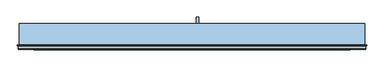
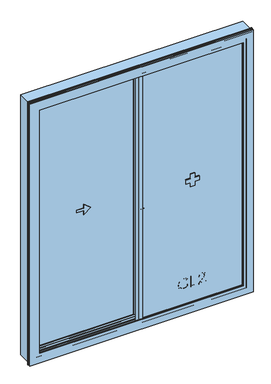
"""IFC4 building model written with IfcOpenShell, lengths in millimetres: window geometry, XL_XHS-9A_Metaglas : XL_XHS-9A_Metaglas."""

from ifc_helpers import new_model, si_unit, point, frame, frame_2d, origin, place, context, project, spatial, polyline, circle_curve, trimmed, segment, composite_curve, outline, extrude, faceted_brep, source, transform, mapped, element, save


def window_7b3e0aa8(model_context):
    return source(origin(), model_context, "Body", "SolidModel", [
        extrude(outline(polyline([(269.2407462, -396.5122122), (281.7977849, -396.5122122), (281.7977849, -437.3225882), (244.2492959, -437.3225882), (232.4034957, -417.1749176), (228.4303702, -395.87455), (230.009197, -381.7877353), (234.7456777, -369.0559526), (242.4742653, -358.4793452), (253.0294129, -350.8580566), (265.6906849, -346.2503346), (279.7376457, -344.7144272), (293.8857741, -346.2442032), (307.0467525, -350.8335311), (318.0862781, -358.2923385), (325.8700479, -368.4305532), (330.486967, -380.7791255), (332.02594, -394.8690059), (328.4574846, -414.5139045), (318.5246708, -428.2849538), (301.9086673, -435.8755856), (298.6467803, -424.2995655), (310.2595886, -418.5728691), (316.9550409, -408.7872081), (319.4689012, -394.6728022), (316.7588372, -378.596359), (309.646452, -367.658001), (299.9711555, -361.1955406), (280.2526805, -357.271466), (258.3637018, -361.9926183), (245.2671028, -375.7268794), (240.9874089, -394.8690059), (244.2125077, -412.0490951), (251.0919011, -424.7655494), (269.2407462, -424.7655494), (269.2407462, -396.5122122)])), frame((0.0, 101.0, 0.0), z_axis=(0.0, 1.0, 0.0), x_axis=(0.0, 0.0, 1.0)), (0.0, 0.0, 1.0), 5.0),
        extrude(outline(polyline([(230.0, -457.7277762), (330.4563101, -457.7277762), (330.4563101, -470.2848149), (242.5570388, -470.2848149), (242.5570388, -520.51297), (230.0, -520.51297), (230.0, -457.7277762)])), frame((0.0, 101.0, 0.0), z_axis=(0.0, 1.0, 0.0), x_axis=(0.0, 0.0, 1.0)), (0.0, 0.0, 1.0), 5.0),
        extrude(outline(polyline([(242.5570388, -594.2855728), (230.0, -594.2855728), (230.0, -528.3611192), (238.6574896, -529.7100199), (251.9870806, -537.3497026), (266.5429449, -553.0827893), (287.4631676, -574.7510388), (301.6879381, -580.1589041), (313.2026446, -575.0453444), (317.8992714, -561.691228), (313.3130092, -547.7730258), (300.6333431, -542.4877878), (302.2029729, -529.9307491), (314.3492101, -532.9749726), (323.2212976, -539.5569946), (328.647557, -549.3334586), (330.4563101, -561.9610081), (328.4452219, -574.6805281), (322.4119572, -584.438598), (313.3988483, -590.6466067), (302.4482276, -592.7159429), (290.5411137, -590.4841255), (278.2293296, -583.0651719), (261.0247149, -565.0757423), (248.9459228, -550.6302427), (242.5570388, -544.9648599), (242.5570388, -594.2855728)])), frame((0.0, 101.0, 0.0), z_axis=(0.0, 1.0, 0.0), x_axis=(0.0, 0.0, 1.0)), (0.0, 0.0, 1.0), 5.0),
        extrude(outline(polyline([(80.0, -931.0), (80.0, -8.0), (2422.0, -8.0), (2422.0, -931.0), (80.0, -931.0)]), holes=[polyline([(2409.0, -918.0), (2409.0, -21.0), (93.0, -21.0), (93.0, -918.0), (2409.0, -918.0)])]), frame((0.0, 76.0, 0.0), z_axis=(0.0, 1.0, 0.0), x_axis=(0.0, 0.0, 1.0)), (0.0, 0.0, 1.0), 25.0),
        extrude(outline(polyline([(-8.0, 104.0), (-931.0, 104.0), (-931.0, 107.0), (-8.0, 107.0), (-8.0, 104.0)])), frame((0.0, 0.0, 80.0), z_axis=(0.0, 0.0, 1.0), x_axis=(1.0, 0.0, 0.0)), (0.0, 0.0, 1.0), 2342.0),
        extrude(outline(polyline([(-8.0, 101.0), (-931.0, 101.0), (-931.0, 104.0), (-8.0, 104.0), (-8.0, 101.0)])), frame((0.0, 0.0, 80.0), z_axis=(0.0, 0.0, 1.0), x_axis=(1.0, 0.0, 0.0)), (0.0, 0.0, 1.0), 2342.0),
        extrude(outline(polyline([(-8.0, 68.0), (-931.0, 68.0), (-931.0, 72.0), (-8.0, 72.0), (-8.0, 68.0)])), frame((0.0, 0.0, 80.0), z_axis=(0.0, 0.0, 1.0), x_axis=(1.0, 0.0, 0.0)), (0.0, 0.0, 1.0), 2342.0),
        extrude(outline(polyline([(-8.0, 72.0), (-931.0, 72.0), (-931.0, 76.0), (-8.0, 76.0), (-8.0, 72.0)])), frame((0.0, 0.0, 80.0), z_axis=(0.0, 0.0, 1.0), x_axis=(1.0, 0.0, 0.0)), (0.0, 0.0, 1.0), 2342.0),
        faceted_brep([(-7.0, 76.0, 79.0), (-7.0, 104.5, 79.0), (-932.0, 104.5, 79.0), (-932.0, 76.0, 79.0), (-1.0, 102.3, 73.0), (-1.0, 76.0, 73.0), (-938.0, 76.0, 73.0), (-938.0, 102.3, 73.0), (5.5, 76.0, 66.5), (5.5, 102.3, 66.5), (-944.5, 102.3, 66.5), (-944.5, 76.0, 66.5), (11.5, 104.5, 60.5), (11.5, 76.0, 60.5), (-950.5, 76.0, 60.5), (-950.5, 104.5, 60.5), (-932.0, 104.5, 2423.0), (-932.0, 76.0, 2423.0), (-938.0, 76.0, 2429.0), (-938.0, 102.3, 2429.0), (-944.5, 102.3, 2435.5), (-944.5, 76.0, 2435.5), (-950.5, 76.0, 2441.5), (-950.5, 104.5, 2441.5), (-7.0, 104.5, 2423.0), (-7.0, 76.0, 2423.0), (-1.0, 76.0, 2429.0), (-1.0, 102.3, 2429.0), (5.5, 102.3, 2435.5), (5.5, 76.0, 2435.5), (11.5, 76.0, 2441.5), (11.5, 104.5, 2441.5)], [[[0, 1, 2, 3]], [[4, 5, 6, 7]], [[8, 9, 10, 11]], [[12, 13, 14, 15]], [[3, 2, 16, 17]], [[7, 6, 18, 19]], [[11, 10, 20, 21]], [[15, 14, 22, 23]], [[17, 16, 24, 25]], [[19, 18, 26, 27]], [[21, 20, 28, 29]], [[23, 22, 30, 31]], [[15, 23, 31, 12], [1, 24, 16, 2]], [[25, 24, 1, 0]], [[5, 26, 18, 6], [3, 17, 25, 0]], [[27, 26, 5, 4]], [[9, 28, 20, 10], [7, 19, 27, 4]], [[29, 28, 9, 8]], [[13, 30, 22, 14], [11, 21, 29, 8]], [[31, 30, 13, 12]]]),
        faceted_brep([(-20.5, 64.0, 92.5), (-20.5, 74.5, 92.5), (-918.5, 74.5, 92.5), (-918.5, 64.0, 92.5), (5.5, 65.5, 66.5), (5.5, 64.0, 66.5), (-944.5, 64.0, 66.5), (-944.5, 65.5, 66.5), (-2.5, 69.5, 74.5), (-2.5, 65.5, 74.5), (-936.5, 65.5, 74.5), (-936.5, 69.5, 74.5), (5.5, 83.0, 66.5), (5.5, 69.5, 66.5), (-944.5, 69.5, 66.5), (-944.5, 83.0, 66.5), (4.0, 78.0, 68.0), (4.0, 83.0, 68.0), (-943.0, 83.0, 68.0), (-943.0, 78.0, 68.0), (1.0, 96.0, 71.0), (1.0, 78.0, 71.0), (-940.0, 78.0, 71.0), (-940.0, 96.0, 71.0), (4.0, 91.0, 68.0), (4.0, 96.0, 68.0), (-943.0, 96.0, 68.0), (-943.0, 91.0, 68.0), (5.5, 98.0, 66.5), (5.5, 91.0, 66.5), (-944.5, 91.0, 66.5), (-944.5, 98.0, 66.5), (-0.5, 76.0, 72.5), (-0.5, 98.0, 72.5), (-938.5, 98.0, 72.5), (-938.5, 76.0, 72.5), (2.0, 71.5, 70.0), (2.0, 76.0, 70.0), (-941.0, 76.0, 70.0), (-941.0, 71.5, 70.0), (-4.5, 69.3, 76.5), (-4.5, 71.5, 76.5), (-934.5, 71.5, 76.5), (-934.5, 69.3, 76.5), (-7.5, 67.8, 79.5), (-7.5, 69.3, 79.5), (-931.5, 69.3, 79.5), (-931.5, 67.8, 79.5), (-4.5, 65.5, 76.5), (-4.5, 67.8, 76.5), (-934.5, 67.8, 76.5), (-934.5, 65.5, 76.5), (-18.5, 67.8, 90.5), (-18.5, 65.5, 90.5), (-920.5, 65.5, 90.5), (-920.5, 67.8, 90.5), (-16.5, 69.3, 88.5), (-16.5, 67.8, 88.5), (-922.5, 67.8, 88.5), (-922.5, 69.3, 88.5), (-18.5, 72.5, 90.5), (-18.5, 69.3, 90.5), (-920.5, 69.3, 90.5), (-920.5, 72.5, 90.5), (-10.5, 74.5, 82.5), (-10.5, 72.5, 82.5), (-928.5, 72.5, 82.5), (-928.5, 74.5, 82.5), (-918.5, 74.5, 2409.5), (-918.5, 64.0, 2409.5), (-944.5, 64.0, 2435.5), (-944.5, 65.5, 2435.5), (-936.5, 65.5, 2427.5), (-936.5, 69.5, 2427.5), (-944.5, 69.5, 2435.5), (-944.5, 83.0, 2435.5), (-943.0, 83.0, 2434.0), (-943.0, 78.0, 2434.0), (-940.0, 78.0, 2431.0), (-940.0, 96.0, 2431.0), (-943.0, 96.0, 2434.0), (-943.0, 91.0, 2434.0), (-944.5, 91.0, 2435.5), (-944.5, 98.0, 2435.5), (-938.5, 98.0, 2429.5), (-938.5, 76.0, 2429.5), (-941.0, 76.0, 2432.0), (-941.0, 71.5, 2432.0), (-934.5, 71.5, 2425.5), (-934.5, 69.3, 2425.5), (-931.5, 69.3, 2422.5), (-931.5, 67.8, 2422.5), (-934.5, 67.8, 2425.5), (-934.5, 65.5, 2425.5), (-920.5, 65.5, 2411.5), (-920.5, 67.8, 2411.5), (-922.5, 67.8, 2413.5), (-922.5, 69.3, 2413.5), (-920.5, 69.3, 2411.5), (-920.5, 72.5, 2411.5), (-928.5, 72.5, 2419.5), (-928.5, 74.5, 2419.5), (-20.5, 74.5, 2409.5), (-20.5, 64.0, 2409.5), (5.5, 64.0, 2435.5), (5.5, 65.5, 2435.5), (-2.5, 65.5, 2427.5), (-2.5, 69.5, 2427.5), (5.5, 69.5, 2435.5), (5.5, 83.0, 2435.5), (4.0, 83.0, 2434.0), (4.0, 78.0, 2434.0), (1.0, 78.0, 2431.0), (1.0, 96.0, 2431.0), (4.0, 96.0, 2434.0), (4.0, 91.0, 2434.0), (5.5, 91.0, 2435.5), (5.5, 98.0, 2435.5), (-0.5, 98.0, 2429.5), (-0.5, 76.0, 2429.5), (2.0, 76.0, 2432.0), (2.0, 71.5, 2432.0), (-4.5, 71.5, 2425.5), (-4.5, 69.3, 2425.5), (-7.5, 69.3, 2422.5), (-7.5, 67.8, 2422.5), (-4.5, 67.8, 2425.5), (-4.5, 65.5, 2425.5), (-18.5, 65.5, 2411.5), (-18.5, 67.8, 2411.5), (-16.5, 67.8, 2413.5), (-16.5, 69.3, 2413.5), (-18.5, 69.3, 2411.5), (-18.5, 72.5, 2411.5), (-10.5, 72.5, 2419.5), (-10.5, 74.5, 2419.5)], [[[0, 1, 2, 3]], [[4, 5, 6, 7]], [[8, 9, 10, 11]], [[12, 13, 14, 15]], [[16, 17, 18, 19]], [[20, 21, 22, 23]], [[24, 25, 26, 27]], [[28, 29, 30, 31]], [[32, 33, 34, 35]], [[36, 37, 38, 39]], [[40, 41, 42, 43]], [[44, 45, 46, 47]], [[48, 49, 50, 51]], [[52, 53, 54, 55]], [[56, 57, 58, 59]], [[60, 61, 62, 63]], [[64, 65, 66, 67]], [[3, 2, 68, 69]], [[7, 6, 70, 71]], [[11, 10, 72, 73]], [[15, 14, 74, 75]], [[19, 18, 76, 77]], [[23, 22, 78, 79]], [[27, 26, 80, 81]], [[31, 30, 82, 83]], [[35, 34, 84, 85]], [[39, 38, 86, 87]], [[43, 42, 88, 89]], [[47, 46, 90, 91]], [[51, 50, 92, 93]], [[55, 54, 94, 95]], [[59, 58, 96, 97]], [[63, 62, 98, 99]], [[67, 66, 100, 101]], [[69, 68, 102, 103]], [[71, 70, 104, 105]], [[73, 72, 106, 107]], [[75, 74, 108, 109]], [[77, 76, 110, 111]], [[79, 78, 112, 113]], [[81, 80, 114, 115]], [[83, 82, 116, 117]], [[85, 84, 118, 119]], [[87, 86, 120, 121]], [[89, 88, 122, 123]], [[91, 90, 124, 125]], [[93, 92, 126, 127]], [[95, 94, 128, 129]], [[97, 96, 130, 131]], [[99, 98, 132, 133]], [[101, 100, 134, 135]], [[103, 102, 1, 0]], [[5, 104, 70, 6], [3, 69, 103, 0]], [[105, 104, 5, 4]], [[7, 71, 105, 4], [9, 106, 72, 10]], [[107, 106, 9, 8]], [[13, 108, 74, 14], [11, 73, 107, 8]], [[109, 108, 13, 12]], [[15, 75, 109, 12], [17, 110, 76, 18]], [[111, 110, 17, 16]], [[19, 77, 111, 16], [21, 112, 78, 22]], [[113, 112, 21, 20]], [[25, 114, 80, 26], [23, 79, 113, 20]], [[115, 114, 25, 24]], [[29, 116, 82, 30], [27, 81, 115, 24]], [[117, 116, 29, 28]], [[31, 83, 117, 28], [33, 118, 84, 34]], [[119, 118, 33, 32]], [[37, 120, 86, 38], [35, 85, 119, 32]], [[121, 120, 37, 36]], [[39, 87, 121, 36], [41, 122, 88, 42]], [[123, 122, 41, 40]], [[43, 89, 123, 40], [45, 124, 90, 46]], [[125, 124, 45, 44]], [[49, 126, 92, 50], [47, 91, 125, 44]], [[127, 126, 49, 48]], [[51, 93, 127, 48], [53, 128, 94, 54]], [[129, 128, 53, 52]], [[57, 130, 96, 58], [55, 95, 129, 52]], [[131, 130, 57, 56]], [[59, 97, 131, 56], [61, 132, 98, 62]], [[133, 132, 61, 60]], [[65, 134, 100, 66], [63, 99, 133, 60]], [[135, 134, 65, 64]], [[67, 101, 135, 64], [1, 102, 68, 2]]]),
        faceted_brep([(-21.0, 110.0, 2409.0), (-21.0, 116.0, 2409.0), (-21.0, 116.0, 93.0), (-21.0, 110.0, 93.0), (-5.9, 113.5, 2424.1), (-5.9, 110.0, 2424.1), (-5.9, 110.0, 77.9), (-5.9, 113.5, 77.9), (11.6, 69.5, 2441.6), (11.6, 113.5, 2441.6), (11.6, 113.5, 60.4), (11.6, 69.5, 60.4), (21.0, 116.0, 2451.0), (21.0, 69.5, 2451.0), (21.0, 69.5, 51.0), (21.0, 116.0, 51.0), (-918.0, 116.0, 93.0), (-918.0, 110.0, 93.0), (-933.1, 110.0, 77.9), (-933.1, 113.5, 77.9), (-950.6, 113.5, 60.4), (-950.6, 69.5, 60.4), (-960.0, 69.5, 51.0), (-960.0, 116.0, 51.0), (-918.0, 116.0, 2409.0), (-918.0, 110.0, 2409.0), (-933.1, 110.0, 2424.1), (-933.1, 113.5, 2424.1), (-950.6, 113.5, 2441.6), (-950.6, 69.5, 2441.6), (-960.0, 69.5, 2451.0), (-960.0, 116.0, 2451.0)], [[[0, 1, 2, 3]], [[4, 5, 6, 7]], [[8, 9, 10, 11]], [[12, 13, 14, 15]], [[3, 2, 16, 17]], [[7, 6, 18, 19]], [[11, 10, 20, 21]], [[15, 14, 22, 23]], [[17, 16, 24, 25]], [[19, 18, 26, 27]], [[21, 20, 28, 29]], [[23, 22, 30, 31]], [[25, 24, 1, 0]], [[5, 26, 18, 6], [3, 17, 25, 0]], [[27, 26, 5, 4]], [[9, 28, 20, 10], [7, 19, 27, 4]], [[29, 28, 9, 8]], [[13, 30, 22, 14], [11, 21, 29, 8]], [[31, 30, 13, 12]], [[15, 23, 31, 12], [1, 24, 16, 2]]]),
        extrude(outline(polyline([(269.2407462, 396.5122122), (269.2407462, 424.7655494), (251.0919011, 424.7655494), (244.2125077, 412.0490951), (240.9874089, 394.8690059), (245.2671028, 375.7268794), (258.3637018, 361.9926183), (280.2526805, 357.271466), (299.9711555, 361.1955406), (309.646452, 367.658001), (316.7588372, 378.596359), (319.4689012, 394.6728022), (316.9550409, 408.7872081), (310.2595886, 418.5728691), (298.6467803, 424.2995655), (301.9086673, 435.8755856), (318.5246708, 428.2849538), (328.4574846, 414.5139045), (332.02594, 394.8690059), (330.486967, 380.7791255), (325.8700479, 368.4305532), (318.0862781, 358.2923385), (307.0467525, 350.8335311), (293.8857741, 346.2442032), (279.7376457, 344.7144272), (265.6906849, 346.2503346), (253.0294129, 350.8580566), (242.4742653, 358.4793452), (234.7456777, 369.0559526), (230.009197, 381.7877353), (228.4303702, 395.87455), (232.4034957, 417.1749176), (244.2492959, 437.3225882), (281.7977849, 437.3225882), (281.7977849, 396.5122122), (269.2407462, 396.5122122)])), frame((0.0, -6.0, 0.0), z_axis=(0.0, 1.0, 0.0), x_axis=(0.0, 0.0, 1.0)), (0.0, 0.0, 1.0), 5.0),
        extrude(outline(polyline([(230.0, 457.7277762), (230.0, 520.51297), (242.5570388, 520.51297), (242.5570388, 470.2848149), (330.4563101, 470.2848149), (330.4563101, 457.7277762), (230.0, 457.7277762)])), frame((0.0, -6.0, 0.0), z_axis=(0.0, 1.0, 0.0), x_axis=(0.0, 0.0, 1.0)), (0.0, 0.0, 1.0), 5.0),
        extrude(outline(polyline([(242.5570388, 594.2855728), (242.5570388, 544.9648599), (248.9459228, 550.6302427), (261.0247149, 565.0757423), (278.2293296, 583.0651719), (290.5411137, 590.4841255), (302.4482276, 592.7159429), (313.3988483, 590.6466067), (322.4119572, 584.438598), (328.4452219, 574.6805281), (330.4563101, 561.9610081), (328.647557, 549.3334586), (323.2212976, 539.5569946), (314.3492101, 532.9749726), (302.2029729, 529.9307491), (300.6333431, 542.4877878), (313.3130092, 547.7730258), (317.8992714, 561.691228), (313.2026446, 575.0453444), (301.6879381, 580.1589041), (287.4631676, 574.7510388), (266.5429449, 553.0827893), (251.9870806, 537.3497026), (238.6574896, 529.7100199), (230.0, 528.3611192), (230.0, 594.2855728), (242.5570388, 594.2855728)])), frame((0.0, -6.0, 0.0), z_axis=(0.0, 1.0, 0.0), x_axis=(0.0, 0.0, 1.0)), (0.0, 0.0, 1.0), 5.0),
        extrude(outline(polyline([(2422.0, 931.0), (2422.0, 8.0), (80.0, 8.0), (80.0, 931.0), (2422.0, 931.0)]), holes=[polyline([(93.0, 918.0), (93.0, 21.0), (2409.0, 21.0), (2409.0, 918.0), (93.0, 918.0)])]), frame((0.0, -1.0, 0.0), z_axis=(0.0, 1.0, 0.0), x_axis=(0.0, 0.0, 1.0)), (0.0, 0.0, 1.0), 25.0),
        extrude(outline(polyline([(8.0, -4.0), (931.0, -4.0), (931.0, -7.0), (8.0, -7.0), (8.0, -4.0)])), frame((0.0, 0.0, 80.0), z_axis=(0.0, 0.0, 1.0), x_axis=(1.0, 0.0, 0.0)), (0.0, 0.0, 1.0), 2342.0),
        extrude(outline(polyline([(8.0, -1.0), (931.0, -1.0), (931.0, -4.0), (8.0, -4.0), (8.0, -1.0)])), frame((0.0, 0.0, 80.0), z_axis=(0.0, 0.0, 1.0), x_axis=(1.0, 0.0, 0.0)), (0.0, 0.0, 1.0), 2342.0),
        extrude(outline(polyline([(8.0, 32.0), (931.0, 32.0), (931.0, 28.0), (8.0, 28.0), (8.0, 32.0)])), frame((0.0, 0.0, 80.0), z_axis=(0.0, 0.0, 1.0), x_axis=(1.0, 0.0, 0.0)), (0.0, 0.0, 1.0), 2342.0),
        extrude(outline(polyline([(8.0, 28.0), (931.0, 28.0), (931.0, 24.0), (8.0, 24.0), (8.0, 28.0)])), frame((0.0, 0.0, 80.0), z_axis=(0.0, 0.0, 1.0), x_axis=(1.0, 0.0, 0.0)), (0.0, 0.0, 1.0), 2342.0),
        faceted_brep([(7.0, 24.0, 79.0), (7.0, -4.5, 79.0), (932.0, -4.5, 79.0), (932.0, 24.0, 79.0), (1.0, -2.3, 73.0), (1.0, 24.0, 73.0), (938.0, 24.0, 73.0), (938.0, -2.3, 73.0), (-5.5, 24.0, 66.5), (-5.5, -2.3, 66.5), (944.5, -2.3, 66.5), (944.5, 24.0, 66.5), (-11.5, -4.5, 60.5), (-11.5, 24.0, 60.5), (950.5, 24.0, 60.5), (950.5, -4.5, 60.5), (932.0, -4.5, 2423.0), (932.0, 24.0, 2423.0), (938.0, 24.0, 2429.0), (938.0, -2.3, 2429.0), (944.5, -2.3, 2435.5), (944.5, 24.0, 2435.5), (950.5, 24.0, 2441.5), (950.5, -4.5, 2441.5), (7.0, -4.5, 2423.0), (7.0, 24.0, 2423.0), (1.0, 24.0, 2429.0), (1.0, -2.3, 2429.0), (-5.5, -2.3, 2435.5), (-5.5, 24.0, 2435.5), (-11.5, 24.0, 2441.5), (-11.5, -4.5, 2441.5)], [[[0, 1, 2, 3]], [[4, 5, 6, 7]], [[8, 9, 10, 11]], [[12, 13, 14, 15]], [[3, 2, 16, 17]], [[7, 6, 18, 19]], [[11, 10, 20, 21]], [[15, 14, 22, 23]], [[17, 16, 24, 25]], [[19, 18, 26, 27]], [[21, 20, 28, 29]], [[23, 22, 30, 31]], [[15, 23, 31, 12], [1, 24, 16, 2]], [[25, 24, 1, 0]], [[5, 26, 18, 6], [3, 17, 25, 0]], [[27, 26, 5, 4]], [[9, 28, 20, 10], [7, 19, 27, 4]], [[29, 28, 9, 8]], [[13, 30, 22, 14], [11, 21, 29, 8]], [[31, 30, 13, 12]]]),
        faceted_brep([(20.5, 36.0, 92.5), (20.5, 25.5, 92.5), (918.5, 25.5, 92.5), (918.5, 36.0, 92.5), (-5.5, 34.5, 66.5), (-5.5, 36.0, 66.5), (944.5, 36.0, 66.5), (944.5, 34.5, 66.5), (2.5, 30.5, 74.5), (2.5, 34.5, 74.5), (936.5, 34.5, 74.5), (936.5, 30.5, 74.5), (-5.5, 17.0, 66.5), (-5.5, 30.5, 66.5), (944.5, 30.5, 66.5), (944.5, 17.0, 66.5), (-4.0, 22.0, 68.0), (-4.0, 17.0, 68.0), (943.0, 17.0, 68.0), (943.0, 22.0, 68.0), (-1.0, 4.0, 71.0), (-1.0, 22.0, 71.0), (940.0, 22.0, 71.0), (940.0, 4.0, 71.0), (-4.0, 9.0, 68.0), (-4.0, 4.0, 68.0), (943.0, 4.0, 68.0), (943.0, 9.0, 68.0), (-5.5, 2.0, 66.5), (-5.5, 9.0, 66.5), (944.5, 9.0, 66.5), (944.5, 2.0, 66.5), (0.5, 24.0, 72.5), (0.5, 2.0, 72.5), (938.5, 2.0, 72.5), (938.5, 24.0, 72.5), (-2.0, 28.5, 70.0), (-2.0, 24.0, 70.0), (941.0, 24.0, 70.0), (941.0, 28.5, 70.0), (4.5, 30.7, 76.5), (4.5, 28.5, 76.5), (934.5, 28.5, 76.5), (934.5, 30.7, 76.5), (7.5, 32.2, 79.5), (7.5, 30.7, 79.5), (931.5, 30.7, 79.5), (931.5, 32.2, 79.5), (4.5, 34.5, 76.5), (4.5, 32.2, 76.5), (934.5, 32.2, 76.5), (934.5, 34.5, 76.5), (18.5, 32.2, 90.5), (18.5, 34.5, 90.5), (920.5, 34.5, 90.5), (920.5, 32.2, 90.5), (16.5, 30.7, 88.5), (16.5, 32.2, 88.5), (922.5, 32.2, 88.5), (922.5, 30.7, 88.5), (18.5, 27.5, 90.5), (18.5, 30.7, 90.5), (920.5, 30.7, 90.5), (920.5, 27.5, 90.5), (10.5, 25.5, 82.5), (10.5, 27.5, 82.5), (928.5, 27.5, 82.5), (928.5, 25.5, 82.5), (918.5, 25.5, 2409.5), (918.5, 36.0, 2409.5), (944.5, 36.0, 2435.5), (944.5, 34.5, 2435.5), (936.5, 34.5, 2427.5), (936.5, 30.5, 2427.5), (944.5, 30.5, 2435.5), (944.5, 17.0, 2435.5), (943.0, 17.0, 2434.0), (943.0, 22.0, 2434.0), (940.0, 22.0, 2431.0), (940.0, 4.0, 2431.0), (943.0, 4.0, 2434.0), (943.0, 9.0, 2434.0), (944.5, 9.0, 2435.5), (944.5, 2.0, 2435.5), (938.5, 2.0, 2429.5), (938.5, 24.0, 2429.5), (941.0, 24.0, 2432.0), (941.0, 28.5, 2432.0), (934.5, 28.5, 2425.5), (934.5, 30.7, 2425.5), (931.5, 30.7, 2422.5), (931.5, 32.2, 2422.5), (934.5, 32.2, 2425.5), (934.5, 34.5, 2425.5), (920.5, 34.5, 2411.5), (920.5, 32.2, 2411.5), (922.5, 32.2, 2413.5), (922.5, 30.7, 2413.5), (920.5, 30.7, 2411.5), (920.5, 27.5, 2411.5), (928.5, 27.5, 2419.5), (928.5, 25.5, 2419.5), (20.5, 25.5, 2409.5), (20.5, 36.0, 2409.5), (-5.5, 36.0, 2435.5), (-5.5, 34.5, 2435.5), (2.5, 34.5, 2427.5), (2.5, 30.5, 2427.5), (-5.5, 30.5, 2435.5), (-5.5, 17.0, 2435.5), (-4.0, 17.0, 2434.0), (-4.0, 22.0, 2434.0), (-1.0, 22.0, 2431.0), (-1.0, 4.0, 2431.0), (-4.0, 4.0, 2434.0), (-4.0, 9.0, 2434.0), (-5.5, 9.0, 2435.5), (-5.5, 2.0, 2435.5), (0.5, 2.0, 2429.5), (0.5, 24.0, 2429.5), (-2.0, 24.0, 2432.0), (-2.0, 28.5, 2432.0), (4.5, 28.5, 2425.5), (4.5, 30.7, 2425.5), (7.5, 30.7, 2422.5), (7.5, 32.2, 2422.5), (4.5, 32.2, 2425.5), (4.5, 34.5, 2425.5), (18.5, 34.5, 2411.5), (18.5, 32.2, 2411.5), (16.5, 32.2, 2413.5), (16.5, 30.7, 2413.5), (18.5, 30.7, 2411.5), (18.5, 27.5, 2411.5), (10.5, 27.5, 2419.5), (10.5, 25.5, 2419.5)], [[[0, 1, 2, 3]], [[4, 5, 6, 7]], [[8, 9, 10, 11]], [[12, 13, 14, 15]], [[16, 17, 18, 19]], [[20, 21, 22, 23]], [[24, 25, 26, 27]], [[28, 29, 30, 31]], [[32, 33, 34, 35]], [[36, 37, 38, 39]], [[40, 41, 42, 43]], [[44, 45, 46, 47]], [[48, 49, 50, 51]], [[52, 53, 54, 55]], [[56, 57, 58, 59]], [[60, 61, 62, 63]], [[64, 65, 66, 67]], [[3, 2, 68, 69]], [[7, 6, 70, 71]], [[11, 10, 72, 73]], [[15, 14, 74, 75]], [[19, 18, 76, 77]], [[23, 22, 78, 79]], [[27, 26, 80, 81]], [[31, 30, 82, 83]], [[35, 34, 84, 85]], [[39, 38, 86, 87]], [[43, 42, 88, 89]], [[47, 46, 90, 91]], [[51, 50, 92, 93]], [[55, 54, 94, 95]], [[59, 58, 96, 97]], [[63, 62, 98, 99]], [[67, 66, 100, 101]], [[69, 68, 102, 103]], [[71, 70, 104, 105]], [[73, 72, 106, 107]], [[75, 74, 108, 109]], [[77, 76, 110, 111]], [[79, 78, 112, 113]], [[81, 80, 114, 115]], [[83, 82, 116, 117]], [[85, 84, 118, 119]], [[87, 86, 120, 121]], [[89, 88, 122, 123]], [[91, 90, 124, 125]], [[93, 92, 126, 127]], [[95, 94, 128, 129]], [[97, 96, 130, 131]], [[99, 98, 132, 133]], [[101, 100, 134, 135]], [[103, 102, 1, 0]], [[5, 104, 70, 6], [3, 69, 103, 0]], [[105, 104, 5, 4]], [[7, 71, 105, 4], [9, 106, 72, 10]], [[107, 106, 9, 8]], [[13, 108, 74, 14], [11, 73, 107, 8]], [[109, 108, 13, 12]], [[15, 75, 109, 12], [17, 110, 76, 18]], [[111, 110, 17, 16]], [[19, 77, 111, 16], [21, 112, 78, 22]], [[113, 112, 21, 20]], [[25, 114, 80, 26], [23, 79, 113, 20]], [[115, 114, 25, 24]], [[29, 116, 82, 30], [27, 81, 115, 24]], [[117, 116, 29, 28]], [[31, 83, 117, 28], [33, 118, 84, 34]], [[119, 118, 33, 32]], [[37, 120, 86, 38], [35, 85, 119, 32]], [[121, 120, 37, 36]], [[39, 87, 121, 36], [41, 122, 88, 42]], [[123, 122, 41, 40]], [[43, 89, 123, 40], [45, 124, 90, 46]], [[125, 124, 45, 44]], [[49, 126, 92, 50], [47, 91, 125, 44]], [[127, 126, 49, 48]], [[51, 93, 127, 48], [53, 128, 94, 54]], [[129, 128, 53, 52]], [[57, 130, 96, 58], [55, 95, 129, 52]], [[131, 130, 57, 56]], [[59, 97, 131, 56], [61, 132, 98, 62]], [[133, 132, 61, 60]], [[65, 134, 100, 66], [63, 99, 133, 60]], [[135, 134, 65, 64]], [[67, 101, 135, 64], [1, 102, 68, 2]]]),
        faceted_brep([(21.0, -10.0, 2409.0), (21.0, -16.0, 2409.0), (21.0, -16.0, 93.0), (21.0, -10.0, 93.0), (5.9, -13.5, 2424.1), (5.9, -10.0, 2424.1), (5.9, -10.0, 77.9), (5.9, -13.5, 77.9), (-11.6, 30.5, 2441.6), (-11.6, -13.5, 2441.6), (-11.6, -13.5, 60.4), (-11.6, 30.5, 60.4), (-21.0, -16.0, 2451.0), (-21.0, 30.5, 2451.0), (-21.0, 30.5, 51.0), (-21.0, -16.0, 51.0), (918.0, -16.0, 93.0), (918.0, -10.0, 93.0), (933.1, -10.0, 77.9), (933.1, -13.5, 77.9), (950.6, -13.5, 60.4), (950.6, 30.5, 60.4), (960.0, 30.5, 51.0), (960.0, -16.0, 51.0), (918.0, -16.0, 2409.0), (918.0, -10.0, 2409.0), (933.1, -10.0, 2424.1), (933.1, -13.5, 2424.1), (950.6, -13.5, 2441.6), (950.6, 30.5, 2441.6), (960.0, 30.5, 2451.0), (960.0, -16.0, 2451.0)], [[[0, 1, 2, 3]], [[4, 5, 6, 7]], [[8, 9, 10, 11]], [[12, 13, 14, 15]], [[3, 2, 16, 17]], [[7, 6, 18, 19]], [[11, 10, 20, 21]], [[15, 14, 22, 23]], [[17, 16, 24, 25]], [[19, 18, 26, 27]], [[21, 20, 28, 29]], [[23, 22, 30, 31]], [[25, 24, 1, 0]], [[5, 26, 18, 6], [3, 17, 25, 0]], [[27, 26, 5, 4]], [[9, 28, 20, 10], [7, 19, 27, 4]], [[29, 28, 9, 8]], [[13, 30, 22, 14], [11, 21, 29, 8]], [[31, 30, 13, 12]], [[15, 23, 31, 12], [1, 24, 16, 2]]]),
        extrude(outline(polyline([(1263.5, -531.8), (1238.5, -531.8), (1238.5, -469.5), (1201.6, -469.5), (1251.0, -407.2), (1300.4, -469.5), (1263.5, -469.5), (1263.5, -531.8)])), frame((0.0, 65.0, 0.0), z_axis=(0.0, 1.0, 0.0), x_axis=(0.0, 0.0, 1.0)), (0.0, 0.0, 1.0), 50.0),
        extrude(outline(polyline([(1311.0, 449.5), (1271.0, 449.5), (1271.0, 409.5), (1231.0, 409.5), (1231.0, 449.5), (1191.0, 449.5), (1191.0, 489.5), (1231.0, 489.5), (1231.0, 529.5), (1271.0, 529.5), (1271.0, 489.5), (1311.0, 489.5), (1311.0, 449.5)])), frame((0.0, -15.0, 0.0), z_axis=(0.0, 1.0, 0.0), x_axis=(0.0, 0.0, 1.0)), (0.0, 0.0, 1.0), 50.0),
        extrude(outline(composite_curve([segment(trimmed(circle_curve(frame_2d((55.1000008, 1090.0)), 10.0), [point((45.1000008, 1090.0))], [point((65.1000008, 1090.0))], False, "CARTESIAN"), True, "CONTINUOUS"), segment(trimmed(circle_curve(frame_2d((55.1000008, 1090.0)), 10.0), [point((65.1000008, 1090.0))], [point((45.1000008, 1090.0))], False, "CARTESIAN"), True, "CONTINUOUS")], self_intersect=False)), frame((38.0, 0.0, 0.0), z_axis=(1.0, 0.0, 0.0), x_axis=(0.0, 1.0, 0.0)), (0.0, 0.0, 1.0), 33.0),
        extrude(outline(polyline([(38.0, 81.1000008), (38.0, 95.1000008), (51.0, 95.1000008), (51.0, 81.1000008), (38.0, 81.1000008)])), frame((0.0, 0.0, 1107.0), z_axis=(0.0, 0.0, 1.0), x_axis=(1.0, 0.0, 0.0)), (0.0, 0.0, 1.0), 65.0),
        extrude(outline(polyline([(38.0, 160.1000008), (38.0, 43.1000008), (24.0, 43.1000008), (24.0, 160.1000008), (38.0, 160.1000008)])), frame((0.0, 0.0, 1064.5), z_axis=(0.0, 0.0, 1.0), x_axis=(1.0, 0.0, 0.0)), (0.0, 0.0, 1.0), 127.0),
        faceted_brep([(918.0223637, 117.3999731, 2409.0223637), (918.0223637, 124.1999529, 2409.0223637), (918.0223637, 124.1999529, 92.9776363), (918.0223637, 117.3999731, 92.9776363), (992.5220194, 124.1999529, 18.4779806), (-992.5220194, 124.1999529, 18.4779806), (-992.5220194, 124.1999529, 2483.5220194), (992.5220194, 124.1999529, 2483.5220194), (-918.0223637, 124.1999529, 2409.0223637), (-918.0223637, 124.1999529, 92.9776363), (-918.0223637, 117.3999731, 92.9776363), (948.5723492, 117.3999731, 2439.5723492), (-948.5723492, 117.3999731, 2439.5723492), (-948.5723492, 117.3999731, 62.4276508), (948.5723492, 117.3999731, 62.4276508), (-918.0223637, 117.3999731, 2409.0223637), (948.5723492, 121.2000079, 2439.5723492), (948.5723492, 121.2000079, 62.4276508), (-948.5723492, 121.2000079, 62.4276508), (981.5227079, 121.2000079, 2472.5227079), (-981.5227079, 121.2000079, 2472.5227079), (-981.5227079, 121.2000079, 29.4772921), (981.5227079, 121.2000079, 29.4772921), (-948.5723492, 121.2000079, 2439.5723492), (981.5227079, 59.0483017, 2472.5227079), (981.5227079, 59.0483017, 29.4772921), (-981.5227079, 59.0483017, 29.4772921), (-981.5227079, 59.0483017, 2472.5227079), (959.9220139, 59.0483017, 2450.9220139), (-959.9220139, 59.0483017, 2450.9220139), (-959.9220139, 59.0483017, 51.0779861), (959.9220139, 59.0483017, 51.0779861), (959.9220139, 60.8984035, 2450.9220139), (959.9220139, 60.8984035, 51.0779861), (-959.9220139, 60.8984035, 51.0779861), (-959.9220139, 60.8984035, 2450.9220139), (952.0220194, 60.8984035, 2443.0220194), (-952.0220194, 60.8984035, 2443.0220194), (-952.0220194, 60.8984035, 58.9779806), (952.0220194, 60.8984035, 58.9779806), (952.0220194, 59.0483017, 2443.0220194), (952.0220194, 59.0483017, 58.9779806), (-952.0220194, 59.0483017, 58.9779806), (-952.0220194, 59.0483017, 2443.0220194), (945.5220261, 59.0483017, 2436.5220261), (-945.5220261, 59.0483017, 2436.5220261), (-945.5220261, 59.0483017, 65.4779739), (945.5220261, 59.0483017, 65.4779739), (945.5220261, 56.5499526, 2436.5220261), (945.5220261, 56.5499526, 65.4779739), (-945.5220261, 56.5499526, 65.4779739), (949.3220545, 55.0863721, 2440.3220545), (949.3220545, 55.0863721, 61.6779455), (-949.3220545, 55.0863721, 61.6779455), (949.3220545, 57.3106255, 2440.3220545), (949.3220545, 57.3106255, 61.6779455), (-949.3220545, 57.3106255, 61.6779455), (952.580895, 57.3106255, 2443.580895), (-952.580895, 57.3106255, 2443.580895), (-952.580895, 57.3106255, 58.419105), (952.580895, 57.3106255, 58.419105), (-949.3220545, 57.3106255, 2440.3220545), (952.580895, 41.3893251, 2443.580895), (952.580895, 41.3893251, 58.419105), (-952.580895, 41.3893251, 58.419105), (-952.580895, 41.3893251, 2443.580895), (949.3000351, 41.3893251, 2440.3000351), (-949.3000351, 41.3893251, 2440.3000351), (-949.3000351, 41.3893251, 61.6999649), (949.3000351, 41.3893251, 61.6999649), (949.3000351, 43.614503, 2440.3000351), (949.3000351, 43.614503, 61.6999649), (-949.3000351, 43.614503, 61.6999649), (945.5000037, 42.1499991, 2436.5000037), (945.5000037, 42.1499991, 65.4999963), (-945.5000037, 42.1499991, 65.4999963), (945.5000037, 39.6516512, 2436.5000037), (945.5000037, 39.6516512, 65.4999963), (-945.5000037, 39.6516512, 65.4999963), (952.0, 39.6516512, 2443.0), (-952.0, 39.6516512, 2443.0), (-952.0, 39.6516512, 59.0), (952.0, 39.6516512, 59.0), (-945.5000037, 39.6516512, 2436.5000037), (952.0, 37.8015494, 2443.0), (952.0, 37.8015494, 59.0), (-952.0, 37.8015494, 59.0), (959.8999945, 37.8015494, 2450.8999945), (-959.8999945, 37.8015494, 2450.8999945), (-959.8999945, 37.8015494, 51.1000055), (959.8999945, 37.8015494, 51.1000055), (-952.0, 37.8015494, 2443.0), (959.8999945, 39.6516512, 2450.8999945), (959.8999945, 39.6516512, 51.1000055), (-959.8999945, 39.6516512, 51.1000055), (981.5, 39.6516512, 2472.5), (-981.5, 39.6516512, 2472.5), (-981.5, 39.6516512, 29.5), (981.5, 39.6516512, 29.5), (-959.8999945, 39.6516512, 2450.8999945), (981.5, -18.7, 29.5), (981.5, -18.7, 2472.5), (-981.5, -18.7, 29.5), (-981.5, -18.7, 2472.5), (945.4999574, -18.7, 2436.4999574), (-945.4999574, -18.7, 2436.4999574), (-945.4999574, -18.7, 65.5000426), (945.4999574, -18.7, 65.5000426), (945.4999574, -25.5, 2436.4999574), (945.4999574, -25.5, 65.5000426), (-945.4999574, -25.5, 65.5000426), (994.5000426, -25.5, 2485.5000426), (-994.5000426, -25.5, 2485.5000426), (-994.5000426, -25.5, 16.4999574), (994.5000426, -25.5, 16.4999574), (-945.4999574, -25.5, 2436.4999574), (994.5000426, -19.1982836, 2485.5000426), (994.5000426, -19.1982836, 16.4999574), (-994.5000426, -19.1982836, 16.4999574), (-994.5000426, -19.1982836, 2485.5000426), (992.5, -19.1982836, 2483.5), (-992.5, -19.1982836, 2483.5), (-992.5, -19.1982836, 18.5), (992.5, -19.1982836, 18.5), (992.5, -7.9, 2483.5), (992.5, -7.9, 18.5), (-992.5, -7.9, 18.5), (1011.0, -7.9, 2502.0), (-1011.0, -7.9, 2502.0), (-1011.0, -7.9, 0.0), (1011.0, -7.9, 0.0), (-992.5, -7.9, 2483.5), (1011.0, -3.098316, 2502.0), (1011.0, -3.098316, 0.0), (-1011.0, -3.098316, 0.0), (-1011.0, -3.098316, 2502.0), (1002.5000085, -3.098316, 2493.5000085), (-1002.5000085, -3.098316, 2493.5000085), (-1002.5000085, -3.098316, 8.4999915), (1002.5000085, -3.098316, 8.4999915), (1002.5000085, -6.148313, 2493.5000085), (1002.5000085, -6.148313, 8.4999915), (-1002.5000085, -6.148313, 8.4999915), (-1002.5000085, -6.148313, 2493.5000085), (992.5, -6.148313, 2483.5), (-992.5, -6.148313, 2483.5), (-992.5, -6.148313, 18.5), (992.5, -6.148313, 18.5), (992.5, 32.1507354, 2483.5), (992.5, 32.1507354, 18.5), (-992.5, 32.1507354, 18.5), (995.799996, 32.1507354, 2486.799996), (-995.799996, 32.1507354, 2486.799996), (-995.799996, 32.1507354, 15.200004), (995.799996, 32.1507354, 15.200004), (-992.5, 32.1507354, 2483.5), (995.799996, 39.0098616, 2486.799996), (995.799996, 39.0098616, 15.200004), (-995.799996, 39.0098616, 15.200004), (992.3044731, 37.2288037, 2483.3044731), (992.3044731, 37.2288037, 18.6955269), (-992.3044731, 37.2288037, 18.6955269), (992.3044731, 61.4823672, 2483.3044731), (992.3044731, 61.4823672, 18.6955269), (-992.3044731, 61.4823672, 18.6955269), (995.8220381, 59.6900783, 2486.8220381), (995.8220381, 59.6900783, 15.1779619), (-995.8220381, 59.6900783, 15.1779619), (995.8220381, 66.5492354, 2486.8220381), (995.8220381, 66.5492354, 15.1779619), (-995.8220381, 66.5492354, 15.1779619), (-995.8220381, 66.5492354, 2486.8220381), (992.5220194, 66.5492354, 2483.5220194), (-992.5220194, 66.5492354, 2483.5220194), (-992.5220194, 66.5492354, 18.4779806), (992.5220194, 66.5492354, 18.4779806), (-945.5220261, 56.5499526, 2436.5220261), (-949.3220545, 55.0863721, 2440.3220545), (-949.3000351, 43.614503, 2440.3000351), (-945.5000037, 42.1499991, 2436.5000037), (-995.799996, 39.0098616, 2486.799996), (-992.3044731, 37.2288037, 2483.3044731), (-992.3044731, 61.4823672, 2483.3044731), (-995.8220381, 59.6900783, 2486.8220381)], [[[0, 1, 2, 3]], [[4, 5, 6, 7], [1, 8, 9, 2]], [[3, 2, 9, 10]], [[11, 12, 13, 14], [3, 10, 15, 0]], [[16, 11, 14, 17]], [[17, 14, 13, 18]], [[19, 20, 21, 22], [17, 18, 23, 16]], [[24, 19, 22, 25]], [[25, 22, 21, 26]], [[25, 26, 27, 24], [28, 29, 30, 31]], [[32, 28, 31, 33]], [[33, 31, 30, 34]], [[33, 34, 35, 32], [36, 37, 38, 39]], [[40, 36, 39, 41]], [[41, 39, 38, 42]], [[41, 42, 43, 40], [44, 45, 46, 47]], [[48, 44, 47, 49]], [[49, 47, 46, 50]], [[51, 48, 49, 52]], [[52, 49, 50, 53]], [[54, 51, 52, 55]], [[55, 52, 53, 56]], [[57, 58, 59, 60], [55, 56, 61, 54]], [[62, 57, 60, 63]], [[63, 60, 59, 64]], [[63, 64, 65, 62], [66, 67, 68, 69]], [[70, 66, 69, 71]], [[71, 69, 68, 72]], [[73, 70, 71, 74]], [[74, 71, 72, 75]], [[76, 73, 74, 77]], [[77, 74, 75, 78]], [[79, 80, 81, 82], [77, 78, 83, 76]], [[84, 79, 82, 85]], [[85, 82, 81, 86]], [[87, 88, 89, 90], [85, 86, 91, 84]], [[92, 87, 90, 93]], [[93, 90, 89, 94]], [[95, 96, 97, 98], [93, 94, 99, 92]], [[95, 98, 100, 101]], [[100, 98, 97, 102]], [[100, 102, 103, 101], [104, 105, 106, 107]], [[108, 104, 107, 109]], [[109, 107, 106, 110]], [[111, 112, 113, 114], [109, 110, 115, 108]], [[116, 111, 114, 117]], [[117, 114, 113, 118]], [[117, 118, 119, 116], [120, 121, 122, 123]], [[124, 120, 123, 125]], [[125, 123, 122, 126]], [[127, 128, 129, 130], [125, 126, 131, 124]], [[132, 127, 130, 133]], [[133, 130, 129, 134]], [[133, 134, 135, 132], [136, 137, 138, 139]], [[140, 136, 139, 141]], [[141, 139, 138, 142]], [[141, 142, 143, 140], [144, 145, 146, 147]], [[148, 144, 147, 149]], [[149, 147, 146, 150]], [[151, 152, 153, 154], [149, 150, 155, 148]], [[156, 151, 154, 157]], [[157, 154, 153, 158]], [[159, 156, 157, 160]], [[160, 157, 158, 161]], [[162, 159, 160, 163]], [[163, 160, 161, 164]], [[165, 162, 163, 166]], [[166, 163, 164, 167]], [[168, 165, 166, 169]], [[169, 166, 167, 170]], [[169, 170, 171, 168], [172, 173, 174, 175]], [[7, 172, 175, 4]], [[4, 175, 174, 5]], [[10, 9, 8, 15]], [[18, 13, 12, 23]], [[26, 21, 20, 27]], [[34, 30, 29, 35]], [[42, 38, 37, 43]], [[50, 46, 45, 176]], [[53, 50, 176, 177]], [[56, 53, 177, 61]], [[64, 59, 58, 65]], [[72, 68, 67, 178]], [[75, 72, 178, 179]], [[78, 75, 179, 83]], [[86, 81, 80, 91]], [[94, 89, 88, 99]], [[102, 97, 96, 103]], [[110, 106, 105, 115]], [[118, 113, 112, 119]], [[126, 122, 121, 131]], [[134, 129, 128, 135]], [[142, 138, 137, 143]], [[150, 146, 145, 155]], [[158, 153, 152, 180]], [[161, 158, 180, 181]], [[164, 161, 181, 182]], [[167, 164, 182, 183]], [[170, 167, 183, 171]], [[5, 174, 173, 6]], [[15, 8, 1, 0]], [[23, 12, 11, 16]], [[27, 20, 19, 24]], [[35, 29, 28, 32]], [[43, 37, 36, 40]], [[176, 45, 44, 48]], [[177, 176, 48, 51]], [[61, 177, 51, 54]], [[65, 58, 57, 62]], [[178, 67, 66, 70]], [[179, 178, 70, 73]], [[83, 179, 73, 76]], [[91, 80, 79, 84]], [[99, 88, 87, 92]], [[103, 96, 95, 101]], [[115, 105, 104, 108]], [[119, 112, 111, 116]], [[131, 121, 120, 124]], [[135, 128, 127, 132]], [[143, 137, 136, 140]], [[155, 145, 144, 148]], [[180, 152, 151, 156]], [[181, 180, 156, 159]], [[182, 181, 159, 162]], [[183, 182, 162, 165]], [[171, 183, 165, 168]], [[6, 173, 172, 7]]]),
        faceted_brep([(992.5220194, 0.0, 0.0), (1011.0, 0.0, 0.0), (1011.0, -3.098316, 0.0), (992.5220194, -3.098316, 0.0), (992.5220194, 0.0, 15.0), (1000.0, 0.0, 15.0), (1000.0, 0.0, 2491.0), (-1000.0, 0.0, 2491.0), (-1000.0, 0.0, 15.0), (-992.5220194, 0.0, 15.0), (-992.5220194, 0.0, 0.0), (-1011.0, 0.0, 0.0), (-1011.0, 0.0, 2502.0), (1011.0, 0.0, 2502.0), (1011.0, -3.098316, 2502.0), (-1011.0, -3.098316, 2502.0), (-1011.0, -3.098316, 0.0), (-992.5220194, -3.098316, 0.0), (-992.5220194, -3.098316, 2483.5220194), (992.5220194, -3.098316, 2483.5220194), (992.5220194, 124.0, 2483.5220194), (992.5220194, 124.0, 15.0), (-992.5220194, 124.0, 2483.5220194), (-992.5220194, 124.0, 15.0), (-1000.0, 124.0, 15.0), (-1000.0, 124.0, 2491.0), (1000.0, 124.0, 2491.0), (1000.0, 124.0, 15.0)], [[[0, 1, 2, 3]], [[0, 4, 5, 6, 7, 8, 9, 10, 11, 12, 13, 1]], [[2, 1, 13, 14]], [[3, 2, 14, 15, 16, 17, 18, 19]], [[3, 19, 20, 21, 4, 0]], [[20, 22, 23, 24, 25, 26, 27, 21]], [[5, 4, 21, 27]], [[18, 17, 10, 9, 23, 22]], [[9, 8, 24, 23]], [[7, 25, 24, 8]], [[26, 6, 5, 27]], [[11, 10, 17, 16]], [[12, 11, 16, 15]], [[20, 19, 18, 22]], [[26, 25, 7, 6]], [[13, 12, 15, 14]]]),
        faceted_brep([(1007.5, -25.4982936, 2498.5), (1007.5, -28.0, 2498.5), (1007.5, -28.0, 3.5), (1007.5, -25.4982936, 3.5), (-1007.5, -28.0, 2498.5), (-1007.5, -28.0, 3.5), (918.0, -28.0, 93.0), (-918.0, -28.0, 93.0), (-918.0, -28.0, 2409.0), (918.0, -28.0, 2409.0), (-1007.5, -25.4982936, 3.5), (-1007.5, -25.4982936, 2498.5), (1005.5, -25.4982936, 2496.5), (-1005.5, -25.4982936, 2496.5), (-1005.5, -25.4982936, 5.5), (1005.5, -25.4982936, 5.5), (1005.5, -7.9982936, 2496.5), (1005.5, -7.9982936, 5.5), (-1005.5, -7.9982936, 5.5), (-1005.5, -7.9982936, 2496.5), (995.5, -7.9982936, 2486.5), (-995.5, -7.9982936, 2486.5), (-995.5, -7.9982936, 15.5), (995.5, -7.9982936, 15.5), (995.5, -8.9982936, 2486.5), (995.5, -8.9982936, 15.5), (-995.5, -8.9982936, 15.5), (998.5, -9.9982936, 2489.5), (998.5, -9.9982936, 12.5), (-998.5, -9.9982936, 12.5), (998.5, -22.9982936, 2489.5), (998.5, -22.9982936, 12.5), (-998.5, -22.9982936, 12.5), (995.5, -23.9982936, 2486.5), (995.5, -23.9982936, 15.5), (-995.5, -23.9982936, 15.5), (995.5, -25.5, 2486.5), (995.5, -25.5, 15.5), (-995.5, -25.5, 15.5), (-995.5, -25.5, 2486.5), (944.9999574, -25.5, 2435.9999574), (-944.9999574, -25.5, 2435.9999574), (-944.9999574, -25.5, 66.0000426), (944.9999574, -25.5, 66.0000426), (944.9999574, -20.5, 2435.9999574), (944.9999574, -20.5, 66.0000426), (-944.9999574, -20.5, 66.0000426), (-944.9999574, -20.5, 2435.9999574), (932.1999125, -20.5, 2423.1999125), (-932.1999125, -20.5, 2423.1999125), (-932.1999125, -20.5, 78.8000875), (932.1999125, -20.5, 78.8000875), (932.1999125, -18.7, 2423.1999125), (932.1999125, -18.7, 78.8000875), (-932.1999125, -18.7, 78.8000875), (-932.1999125, -18.7, 2423.1999125), (918.0, -18.7, 2409.0), (-918.0, -18.7, 2409.0), (-918.0, -18.7, 93.0), (918.0, -18.7, 93.0), (-995.5, -8.9982936, 2486.5), (-998.5, -9.9982936, 2489.5), (-998.5, -22.9982936, 2489.5), (-995.5, -23.9982936, 2486.5)], [[[0, 1, 2, 3]], [[1, 4, 5, 2], [6, 7, 8, 9]], [[3, 2, 5, 10]], [[3, 10, 11, 0], [12, 13, 14, 15]], [[16, 12, 15, 17]], [[17, 15, 14, 18]], [[17, 18, 19, 16], [20, 21, 22, 23]], [[24, 20, 23, 25]], [[25, 23, 22, 26]], [[27, 24, 25, 28]], [[28, 25, 26, 29]], [[30, 27, 28, 31]], [[31, 28, 29, 32]], [[33, 30, 31, 34]], [[34, 31, 32, 35]], [[36, 33, 34, 37]], [[37, 34, 35, 38]], [[37, 38, 39, 36], [40, 41, 42, 43]], [[44, 40, 43, 45]], [[45, 43, 42, 46]], [[45, 46, 47, 44], [48, 49, 50, 51]], [[52, 48, 51, 53]], [[53, 51, 50, 54]], [[53, 54, 55, 52], [56, 57, 58, 59]], [[9, 56, 59, 6]], [[6, 59, 58, 7]], [[10, 5, 4, 11]], [[18, 14, 13, 19]], [[26, 22, 21, 60]], [[29, 26, 60, 61]], [[32, 29, 61, 62]], [[35, 32, 62, 63]], [[38, 35, 63, 39]], [[46, 42, 41, 47]], [[54, 50, 49, 55]], [[7, 58, 57, 8]], [[11, 4, 1, 0]], [[19, 13, 12, 16]], [[60, 21, 20, 24]], [[61, 60, 24, 27]], [[62, 61, 27, 30]], [[63, 62, 30, 33]], [[39, 63, 33, 36]], [[47, 41, 40, 44]], [[55, 49, 48, 52]], [[8, 57, 56, 9]]]),
        faceted_brep([(939.5, 39.7499996, 2430.5), (939.5, 37.7500033, 2430.5), (939.5, 37.7500033, 71.5), (939.5, 39.7499996, 71.5), (-939.5, 37.7500033, 2430.5), (-939.5, 37.7500033, 71.5), (918.0000005, 37.7500033, 92.9999995), (-918.0000005, 37.7500033, 92.9999995), (-918.0000005, 37.7500033, 2409.0000005), (918.0000005, 37.7500033, 2409.0000005), (-939.5, 39.7499996, 71.5), (945.3000005, 39.7499996, 2436.3000005), (-945.3000005, 39.7499996, 2436.3000005), (-945.3000005, 39.7499996, 65.6999995), (945.3000005, 39.7499996, 65.6999995), (-939.5, 39.7499996, 2430.5), (945.3000005, 41.9500007, 2436.3000005), (945.3000005, 41.9500007, 65.6999995), (-945.3000005, 41.9500007, 65.6999995), (951.0, 41.9500007, 2442.0), (-951.0, 41.9500007, 2442.0), (-951.0, 41.9500007, 60.0), (951.0, 41.9500007, 60.0), (-945.3000005, 41.9500007, 2436.3000005), (951.0, 56.8499999, 2442.0), (951.0, 56.8499999, 60.0), (-951.0, 56.8499999, 60.0), (-951.0, 56.8499999, 2442.0), (945.3000003, 56.8499999, 2436.3000003), (-945.3000003, 56.8499999, 2436.3000003), (-945.3000003, 56.8499999, 65.6999997), (945.3000003, 56.8499999, 65.6999997), (945.3000003, 59.0500004, 2436.3000003), (945.3000003, 59.0500004, 65.6999997), (-945.3000003, 59.0500004, 65.6999997), (-945.3000003, 59.0500004, 2436.3000003), (939.5, 59.0500004, 2430.5), (-939.5, 59.0500004, 2430.5), (-939.5, 59.0500004, 71.5), (939.5, 59.0500004, 71.5), (939.5, 61.0499997, 2430.5), (939.5, 61.0499997, 71.5), (-939.5, 61.0499997, 71.5), (-939.5, 61.0499997, 2430.5), (918.0000003, 61.0499997, 2409.0000003), (-918.0000003, 61.0499997, 2409.0000003), (-918.0000003, 61.0499997, 92.9999997), (918.0000003, 61.0499997, 92.9999997), (918.0000003, 59.2500001, 2409.0000003), (918.0000003, 59.2500001, 92.9999997), (-918.0000003, 59.2500001, 92.9999997), (920.1395092, 59.2500001, 2411.1395092), (-920.1395092, 59.2500001, 2411.1395092), (-920.1395092, 59.2500001, 90.8604908), (920.1395092, 59.2500001, 90.8604908), (-918.0000003, 59.2500001, 2409.0000003), (921.0322045, 57.9750983, 2412.0322045), (921.0322045, 57.9750983, 89.9677955), (-921.0322045, 57.9750983, 89.9677955), (922.6071072, 59.5500005, 2413.6071072), (922.6071072, 59.5500005, 88.3928928), (-922.6071072, 59.5500005, 88.3928928), (924.9999995, 59.5500005, 2415.9999995), (-924.9999995, 59.5500005, 2415.9999995), (-924.9999995, 59.5500005, 86.0000005), (924.9999995, 59.5500005, 86.0000005), (-922.6071072, 59.5500005, 2413.6071072), (924.9999995, 39.2499995, 2415.9999995), (924.9999995, 39.2499995, 86.0000005), (-924.9999995, 39.2499995, 86.0000005), (-924.9999995, 39.2499995, 2415.9999995), (922.6899498, 39.2499995, 2413.6899498), (-922.6899498, 39.2499995, 2413.6899498), (-922.6899498, 39.2499995, 88.3100502), (922.6899498, 39.2499995, 88.3100502), (921.0322046, 40.8249019, 2412.0322046), (921.0322046, 40.8249019, 89.9677954), (-921.0322046, 40.8249019, 89.9677954), (920.1395089, 39.55, 2411.1395089), (920.1395089, 39.55, 90.8604911), (-920.1395089, 39.55, 90.8604911), (-920.1395089, 39.55, 2411.1395089), (918.0000005, 39.55, 2409.0000005), (-918.0000005, 39.55, 2409.0000005), (-918.0000005, 39.55, 92.9999995), (918.0000005, 39.55, 92.9999995), (-921.0322045, 57.9750983, 2412.0322045), (-921.0322046, 40.8249019, 2412.0322046)], [[[0, 1, 2, 3]], [[1, 4, 5, 2], [6, 7, 8, 9]], [[3, 2, 5, 10]], [[11, 12, 13, 14], [3, 10, 15, 0]], [[16, 11, 14, 17]], [[17, 14, 13, 18]], [[19, 20, 21, 22], [17, 18, 23, 16]], [[24, 19, 22, 25]], [[25, 22, 21, 26]], [[25, 26, 27, 24], [28, 29, 30, 31]], [[32, 28, 31, 33]], [[33, 31, 30, 34]], [[33, 34, 35, 32], [36, 37, 38, 39]], [[40, 36, 39, 41]], [[41, 39, 38, 42]], [[41, 42, 43, 40], [44, 45, 46, 47]], [[48, 44, 47, 49]], [[49, 47, 46, 50]], [[51, 52, 53, 54], [49, 50, 55, 48]], [[56, 51, 54, 57]], [[57, 54, 53, 58]], [[59, 56, 57, 60]], [[60, 57, 58, 61]], [[62, 63, 64, 65], [60, 61, 66, 59]], [[67, 62, 65, 68]], [[68, 65, 64, 69]], [[68, 69, 70, 67], [71, 72, 73, 74]], [[75, 71, 74, 76]], [[76, 74, 73, 77]], [[78, 75, 76, 79]], [[79, 76, 77, 80]], [[79, 80, 81, 78], [82, 83, 84, 85]], [[9, 82, 85, 6]], [[6, 85, 84, 7]], [[10, 5, 4, 15]], [[18, 13, 12, 23]], [[26, 21, 20, 27]], [[34, 30, 29, 35]], [[42, 38, 37, 43]], [[50, 46, 45, 55]], [[58, 53, 52, 86]], [[61, 58, 86, 66]], [[69, 64, 63, 70]], [[77, 73, 72, 87]], [[80, 77, 87, 81]], [[7, 84, 83, 8]], [[15, 4, 1, 0]], [[23, 12, 11, 16]], [[27, 20, 19, 24]], [[35, 29, 28, 32]], [[43, 37, 36, 40]], [[55, 45, 44, 48]], [[86, 52, 51, 56]], [[66, 86, 56, 59]], [[70, 63, 62, 67]], [[87, 72, 71, 75]], [[81, 87, 75, 78]], [[8, 83, 82, 9]]]),
        faceted_brep([(922.5545517, 59.0732051, 2413.5545517), (925.3660254, 57.45, 2416.3660254), (925.3660254, 57.45, 85.6339746), (922.5545517, 59.0732051, 88.4454483), (-925.3660254, 57.45, 2416.3660254), (-925.3660254, 57.45, 85.6339746), (918.8, 57.45, 92.2), (-918.8, 57.45, 92.2), (-918.8, 57.45, 2409.8), (918.8, 57.45, 2409.8), (-922.5545517, 59.0732051, 88.4454483), (921.1287187, 58.25, 2412.1287187), (921.1287187, 58.25, 89.8712813), (-921.1287187, 58.25, 89.8712813), (-921.1287187, 58.25, 2412.1287187), (918.8, 58.25, 2409.8), (-918.8, 58.25, 2409.8), (-918.8, 58.25, 92.2), (918.8, 58.25, 92.2), (918.8, 59.85, 2409.8), (918.8, 59.85, 92.2), (-918.8, 59.85, 92.2), (-918.8, 59.85, 2409.8), (918.0, 59.85, 2409.0), (-918.0, 59.85, 2409.0), (-918.0, 59.85, 93.0), (918.0, 59.85, 93.0), (918.0, 38.95, 2409.0), (918.0, 38.95, 93.0), (-918.0, 38.95, 93.0), (918.8, 38.95, 2409.8), (-918.8, 38.95, 2409.8), (-918.8, 38.95, 92.2), (918.8, 38.95, 92.2), (-918.0, 38.95, 2409.0), (918.8, 40.55, 2409.8), (918.8, 40.55, 92.2), (-918.8, 40.55, 92.2), (921.1287187, 40.55, 2412.1287187), (-921.1287187, 40.55, 2412.1287187), (-921.1287187, 40.55, 89.8712813), (921.1287187, 40.55, 89.8712813), (-918.8, 40.55, 2409.8), (922.5545517, 39.7267949, 2413.5545517), (922.5545517, 39.7267949, 88.4454483), (-922.5545517, 39.7267949, 88.4454483), (925.3660254, 41.35, 2416.3660254), (925.3660254, 41.35, 85.6339746), (-925.3660254, 41.35, 85.6339746), (-925.3660254, 41.35, 2416.3660254), (918.8, 41.35, 2409.8), (-918.8, 41.35, 2409.8), (-918.8, 41.35, 92.2), (918.8, 41.35, 92.2), (-922.5545517, 59.0732051, 2413.5545517), (-922.5545517, 39.7267949, 2413.5545517)], [[[0, 1, 2, 3]], [[1, 4, 5, 2], [6, 7, 8, 9]], [[3, 2, 5, 10]], [[11, 0, 3, 12]], [[12, 3, 10, 13]], [[12, 13, 14, 11], [15, 16, 17, 18]], [[19, 15, 18, 20]], [[20, 18, 17, 21]], [[20, 21, 22, 19], [23, 24, 25, 26]], [[27, 23, 26, 28]], [[28, 26, 25, 29]], [[30, 31, 32, 33], [28, 29, 34, 27]], [[35, 30, 33, 36]], [[36, 33, 32, 37]], [[38, 39, 40, 41], [36, 37, 42, 35]], [[43, 38, 41, 44]], [[44, 41, 40, 45]], [[46, 43, 44, 47]], [[47, 44, 45, 48]], [[47, 48, 49, 46], [50, 51, 52, 53]], [[9, 50, 53, 6]], [[6, 53, 52, 7]], [[10, 5, 4, 54]], [[13, 10, 54, 14]], [[21, 17, 16, 22]], [[29, 25, 24, 34]], [[37, 32, 31, 42]], [[45, 40, 39, 55]], [[48, 45, 55, 49]], [[7, 52, 51, 8]], [[54, 4, 1, 0]], [[14, 54, 0, 11]], [[22, 16, 15, 19]], [[34, 24, 23, 27]], [[42, 31, 30, 35]], [[55, 39, 38, 43]], [[49, 55, 43, 46]], [[8, 51, 50, 9]]]),
    ])


if __name__ == "__main__":
    model = new_model("IFC4")
    model_context = context("Model", 3, world=origin())
    ifc_project = project(units=[si_unit("LENGTHUNIT", "METRE", prefix="MILLI")], contexts=[model_context])
    site = spatial("IfcSite", under=ifc_project)
    building = spatial("IfcBuilding", under=site)
    placement = place(None, origin())
    window_shape = window_7b3e0aa8(model_context)
    element("IfcWindow", 1, ObjectType="XL_XHS-9A_Metaglas : XL_XHS-9A_Metaglas", at=placement, inside=building, context=model_context, shape_type="MappedRepresentation", body=[
        mapped(window_shape, transform((0.0, 0.0, 0.0), x_axis=(1.0, 0.0, 0.0), y_axis=(0.0, 1.0, 0.0), z_axis=(0.0, 0.0, 1.0))),
    ])
    save(model, "model.ifc")
